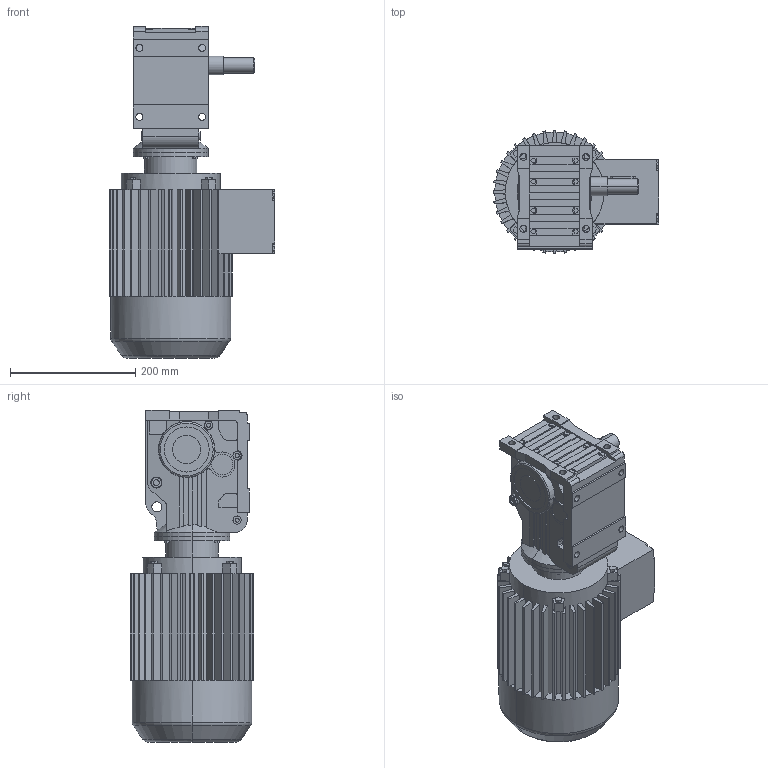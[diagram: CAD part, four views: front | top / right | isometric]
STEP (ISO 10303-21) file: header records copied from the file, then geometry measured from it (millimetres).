
FILE_DESCRIPTION(('Open CASCADE Model'),'2;1');
FILE_NAME('Open CASCADE Shape Model','2021-06-22T12:11:23',('Author'),( 'Open CASCADE'),'Open CASCADE STEP processor 6.3','Open CASCADE 6.3' ,'Unknown');
FILE_SCHEMA(('AUTOMOTIVE_DESIGN_CC2 { 1 2 10303 214 -1 1 5 4 }'));
Length unit declared in the file: millimetre
Products named in the file (4): 1_K37DV100M-A; K37‵157_37.step; 萇儂_120-DV100M-328-413-197-166.step; す瑩妗陑粣K_37.step
Assembly tree (3 placements, depth 2):
  1_K37DV100M-A
    K37‵157_37.step
    萇儂_120-DV100M-328-413-197-166.step
    す瑩妗陑粣K_37.step
Bounding box: 265 x 197 x 530 mm (x, y, z)
Volume: 11139988 mm3; surface area: 676718.7 mm2
Topology: 3 solids, 3 shells, 836 faces, 2204 edges, 1431 vertices
Faces by surface type: plane 582, cylinder 231, cone 15, torus 8
Entity records: 57290 total; most frequent: CARTESIAN_POINT 15409, DIRECTION 7217, ORIENTED_EDGE 4404, PCURVE 4404, DEFINITIONAL_REPRESENTATION 4404, LINE 3932, VECTOR 3932, EDGE_CURVE 2202
